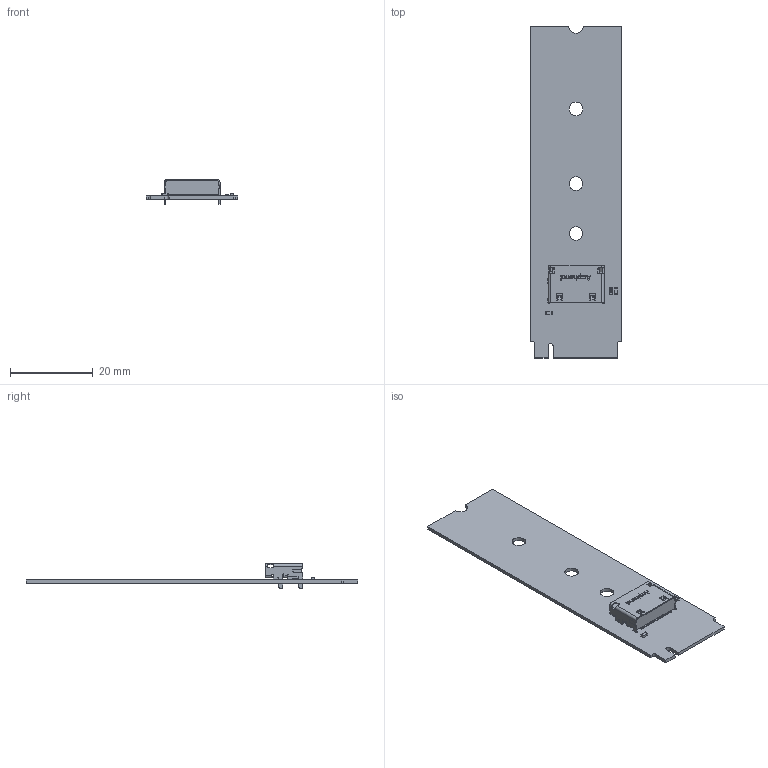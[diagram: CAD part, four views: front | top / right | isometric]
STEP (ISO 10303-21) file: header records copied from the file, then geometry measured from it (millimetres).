
FILE_DESCRIPTION(('Open CASCADE Model'),'2;1');
FILE_NAME('Open CASCADE Shape Model','2024-07-24T17:21:43',('Author'),( 'Open CASCADE'),'Open CASCADE STEP processor 7.5','Open CASCADE 7.5' ,'Unknown');
FILE_SCHEMA(('AUTOMOTIVE_DESIGN { 1 0 10303 214 1 1 1 1 }'));
Length unit declared in the file: millimetre
Products named in the file (16): PCB; Board; Open CASCADE STEP translator 7.5 4.1.1; C2; C0603_060; C1; R1; 0603_RES; Capsule; Encapsulation; TopCover; 3; g14a421x1bxxhr
Assembly tree (20 placements, depth 4):
  PCB
    Board
      Open CASCADE STEP translator 7.5 4.1.1
    C2
      C0603_060
      C0603_060
      C0603_060
    C1
      C0603_060
      C0603_060
      C0603_060
    R1
      0603_RES
        Capsule
        Encapsulation  x2
        TopCover
    3
      g14a421x1bxxhr  x2
      g14a421x1bxxhr
Bounding box: 22 x 80 x 5.95 mm (x, y, z)
Volume: 2260.4 mm3; surface area: 6157.7 mm2
Topology: 14 solids, 14 shells, 4983 faces, 13081 edges, 8246 vertices
Faces by surface type: plane 4094, cylinder 784, bspline 62, cone 27, sphere 16
Full cylindrical faces by diameter (mm): 1 x2, 3.3 x3
Entity records: 130528 total; most frequent: CARTESIAN_POINT 18794, ORIENTED_EDGE 17570, DIRECTION 16315, EDGE_CURVE 8785, LINE 7593, VECTOR 7593, VERTEX_POINT 5550, AXIS2_PLACEMENT_3D 4361
